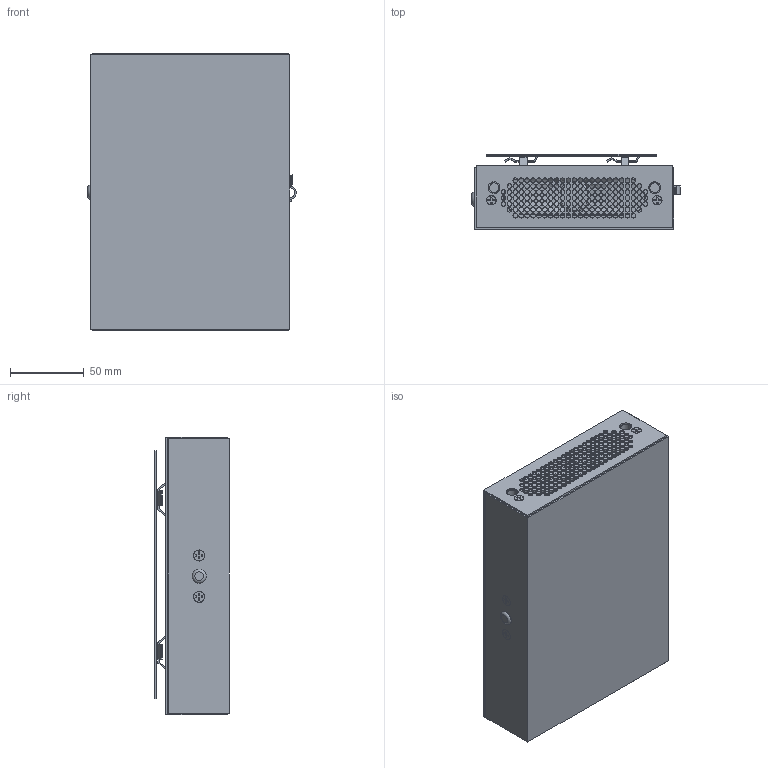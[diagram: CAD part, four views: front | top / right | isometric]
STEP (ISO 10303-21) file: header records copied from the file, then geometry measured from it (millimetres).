
FILE_DESCRIPTION(/* description */ (''),/* implementation_level */ '2;1');
FILE_NAME(/* name */ 'A175-SMS-FLAT-3D图.stp',/* time_stamp */ '2020-10-09T22:05:16+08:00',/* author */ (''),/* organization */ (''),/* preprocessor_version */ 'ST-DEVELOPER v16.7',/* originating_system */ 'SIEMENS PLM Software NX 12.0',/* authorisation */ '');
FILE_SCHEMA (('AUTOMOTIVE_DESIGN { 1 0 10303 214 3 1 1 1 }'));
Length unit declared in the file: millimetre
Products named in the file (12): 盆架207; 盆架2217; 后壳208; 盖板209; GDQ-FLAT00-12210; GB-FLAT00-11211; 正负极212; 开关213; 波段开关支架214; 变压器215; GDB-FLAT01-12216; SMS-FLAT_stp
Assembly tree (14 placements, depth 2):
  SMS-FLAT_stp
    GDB-FLAT01-12216
    变压器215
    波段开关支架214
    开关213
    正负极212
    GB-FLAT00-11211
    GDQ-FLAT00-12210
    盖板209
    后壳208  x2
    盆架2217  x2
    盆架207  x2
Bounding box: 141.25 x 50.56 x 188 mm (x, y, z)
Volume: 276476.2 mm3; surface area: 384547.7 mm2
Topology: 45 solids, 45 shells, 2136 faces, 6136 edges, 4129 vertices
Faces by surface type: plane 1222, cylinder 767, torus 59, cone 41, sphere 24, bspline 21, extrusion 2
Full cylindrical faces by diameter (mm): 2 x20, 2.5 x3, 3 x12, 3.2 x326, 3.3 x1, 3.5 x8, 3.636 x2, 3.81 x17, 4 x2, 4.2 x2, 5 x2, 5.5 x2, 6 x27, 6.4 x8, 6.5 x8, 7 x1, 8 x8, 8.5 x5, 9 x1, 9.5 x1, 20 x2, 20.708 x2, 22 x2, 27 x4
Entity records: 53590 total; most frequent: CARTESIAN_POINT 11392, DIRECTION 8453, ORIENTED_EDGE 7790, EDGE_CURVE 3895, EDGE_LOOP 3013, AXIS2_PLACEMENT_3D 2992, VERTEX_POINT 2854, VECTOR 2469
